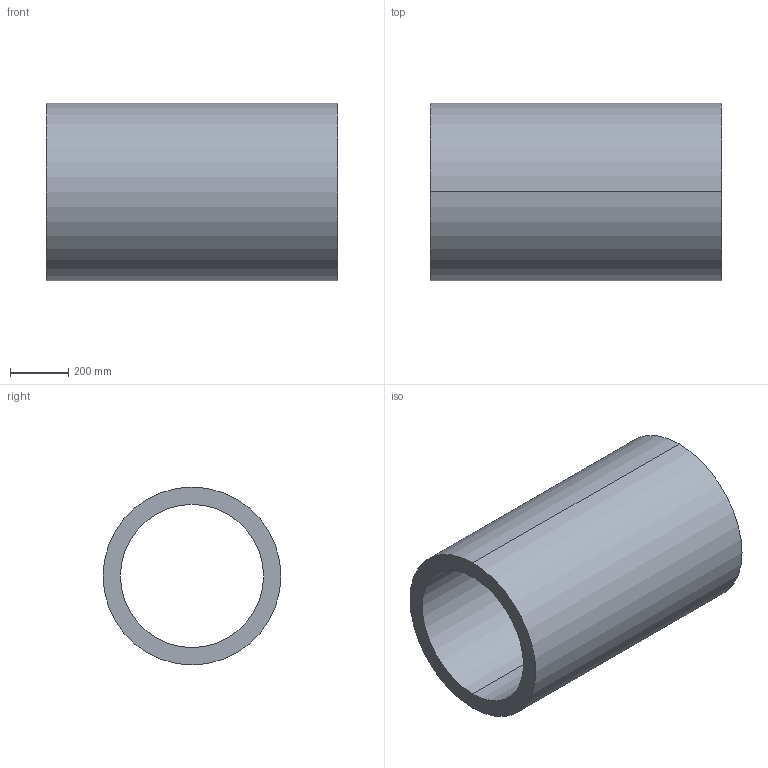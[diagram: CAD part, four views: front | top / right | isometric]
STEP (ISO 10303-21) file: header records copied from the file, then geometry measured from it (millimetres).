
FILE_DESCRIPTION (( 'STEP AP214' ), '1' );
FILE_NAME ('Sch160-600A.STEP', '2022-04-22T02:52:24', ( 'ASIS User' ), ( 'ASIS User' ), 'SwSTEP 2.0', 'SolidWorks 2022', '' );
FILE_SCHEMA (( 'AUTOMOTIVE_DESIGN' ));
Length unit declared in the file: millimetre
Products named in the file (1): Sch160-600A
Bounding box: 1000 x 609.6 x 609.6 mm (x, y, z)
Volume: 102827312.1 mm3; surface area: 3662034.9 mm2
Topology: 1 solids, 1 shells, 6 faces, 12 edges, 8 vertices
Faces by surface type: cylinder 4, plane 2
Entity records: 202 total; most frequent: DIRECTION 34, CARTESIAN_POINT 27, ORIENTED_EDGE 24, AXIS2_PLACEMENT_3D 15, EDGE_CURVE 12, EDGE_LOOP 8, VERTEX_POINT 8, CIRCLE 8
